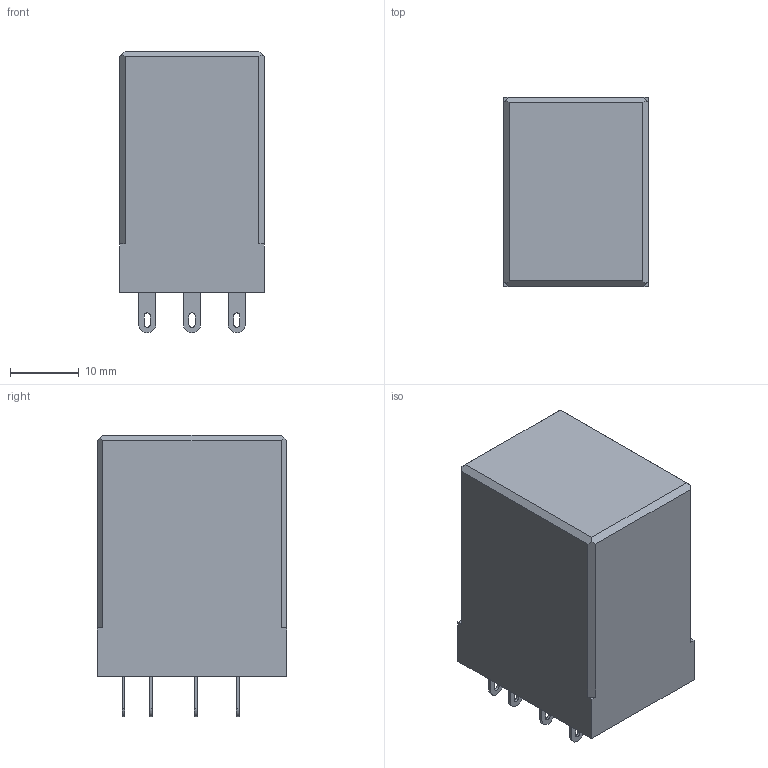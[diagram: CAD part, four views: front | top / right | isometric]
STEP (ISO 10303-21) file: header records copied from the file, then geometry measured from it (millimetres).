
FILE_DESCRIPTION (( 'STEP AP203' ), '1' );
FILE_NAME ('RI-53 ENGARD.STEP', '2021-12-08T11:36:18', ( '' ), ( '' ), 'SwSTEP 2.0', 'SolidWorks 2017', '' );
FILE_SCHEMA (( 'CONFIG_CONTROL_DESIGN' ));
Length unit declared in the file: millimetre
Products named in the file (1): RI-53 ENGARD
Bounding box: 21 x 27.5 x 40.9 mm (x, y, z)
Volume: 5601.5 mm3; surface area: 9993 mm2
Topology: 13 solids, 13 shells, 175 faces, 444 edges, 296 vertices
Faces by surface type: plane 120, cylinder 55
Entity records: 5365 total; most frequent: CARTESIAN_POINT 916, DIRECTION 906, ORIENTED_EDGE 888, EDGE_CURVE 444, VECTOR 334, LINE 334, VERTEX_POINT 296, AXIS2_PLACEMENT_3D 286
